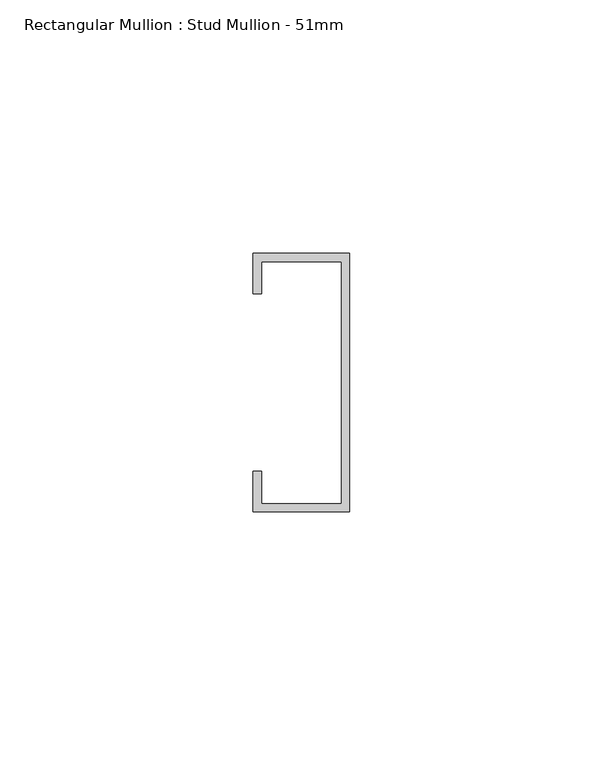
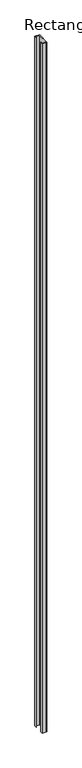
"""IFC4 building model written with IfcOpenShell, lengths in millimetres: member geometry, Rectangular Mullion : Stud Mullion - 51mm."""

from ifc_helpers import new_model, si_unit, frame, origin, place, context, project, spatial, polyline, outline, extrude, source, transform, mapped, element, save


def rectangular_mullion_stud_mullion_51mm_a2fb9e12(model_context):
    return source(origin(), model_context, "Body", "SweptSolid", [
        extrude(outline(polyline([(-19.0, 17.5), (-19.0, 25.5), (0.0, 25.5), (0.0, -25.5), (-19.0, -25.5), (-19.0, -17.5), (-17.4, -17.5), (-17.4, -23.9), (-1.6, -23.9), (-1.6, 23.9), (-17.4, 23.9), (-17.4, 17.5), (-19.0, 17.5)])), frame((0.0, 0.0, -3000.0), z_axis=(0.0, 0.0, 1.0), x_axis=(1.0, 0.0, 0.0)), (0.0, 0.0, 1.0), 3000.0),
    ])


if __name__ == "__main__":
    model = new_model("IFC4")
    model_context = context("Model", 3, world=origin())
    ifc_project = project(units=[si_unit("LENGTHUNIT", "METRE", prefix="MILLI")], contexts=[model_context])
    site = spatial("IfcSite", under=ifc_project)
    building = spatial("IfcBuilding", under=site)
    placement = place(None, origin())
    rectangular_mullion_stud_mullion_51mm_shape = rectangular_mullion_stud_mullion_51mm_a2fb9e12(model_context)
    element("IfcMember", 1, ObjectType="Rectangular Mullion : Stud Mullion - 51mm", at=placement, inside=building, context=model_context, shape_type="MappedRepresentation", body=[
        mapped(rectangular_mullion_stud_mullion_51mm_shape, transform((0.0, 0.0, 0.0), x_axis=(1.0, 0.0, 0.0), y_axis=(0.0, 1.0, 0.0), z_axis=(0.0, 0.0, 1.0))),
    ])
    save(model, "model.ifc")
